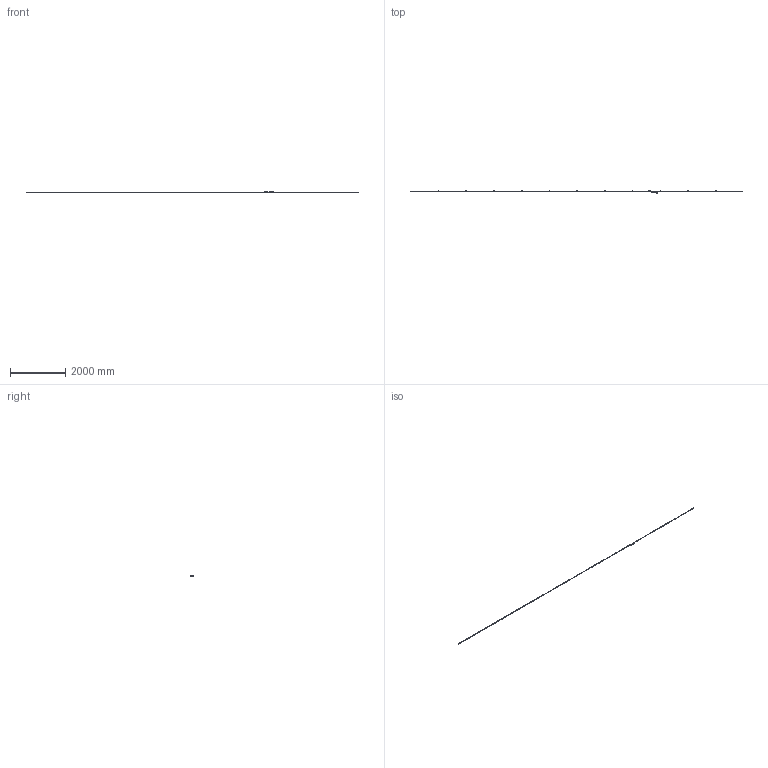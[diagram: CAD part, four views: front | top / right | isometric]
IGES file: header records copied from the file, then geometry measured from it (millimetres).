
Start section: Elysium IGES Interface
Global section: file name: 91H\\Utsu119s\kiyo_cad\data\3D\ABS ST1300\HP掲載用_201803\ST1300-Dタイプ\PKG\ST1300-11800D.igs; native system: Creo Elements/Direct Modeling 18.1B  29-Sep-2012; preprocessor: Creo Element/Direct IGES_3D V2.2; author: Unknown; organization: Unknown; date: 20180301.165909; units: millimetre
Bounding box: 11973 x 88.3 x 30.1 mm (x, y, z)
Volume: 1031456.7 mm3; surface area: 640111.3 mm2
Topology: 3 solids, 10 shells, 6865 faces, 18342 edges, 11794 vertices
Faces by surface type: bspline 6865
